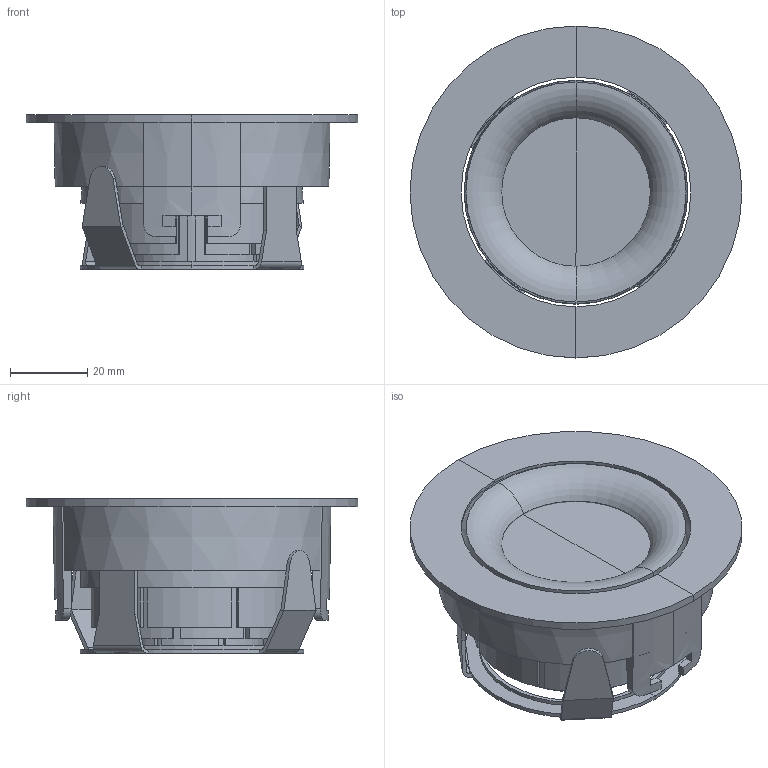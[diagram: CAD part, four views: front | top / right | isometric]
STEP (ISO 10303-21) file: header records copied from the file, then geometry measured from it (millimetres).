
FILE_DESCRIPTION(/* description */ (''),/* implementation_level */ '2;1');
FILE_NAME(/* name */ 'C:\Users\FrancoSartori\Documents\FARO\01_En Proceso\000_NAIS\03_Publicación\02111001.stp',/* time_stamp */ '2021-07-05T13:58:02+02:00',/* author */ ('FrancoSartori'),/* organization */ (''),/* preprocessor_version */ 'ST-DEVELOPER v18.1',/* originating_system */ 'AutoCAD Mechanical',/* authorisation */ '');
FILE_SCHEMA (('AUTOMOTIVE_DESIGN { 1 0 10303 214 3 1 1 }'));
Length unit declared in the file: millimetre
Products named in the file (2): Product; 02111001_ 02111002_ - Lamp-419989-_3D_
Assembly tree (1 placements, depth 2):
  Product
    02111001_ 02111002_ - Lamp-419989-_3D_
Bounding box: 86 x 86 x 40 mm (x, y, z)
Volume: 68273.6 mm3; surface area: 52421.6 mm2
Topology: 11 solids, 11 shells, 310 faces, 752 edges, 474 vertices
Faces by surface type: plane 181, cylinder 101, cone 24, torus 4
Entity records: 9304 total; most frequent: CARTESIAN_POINT 1848, DIRECTION 1608, ORIENTED_EDGE 1504, EDGE_CURVE 752, AXIS2_PLACEMENT_3D 585, VERTEX_POINT 474, LINE 438, VECTOR 438
